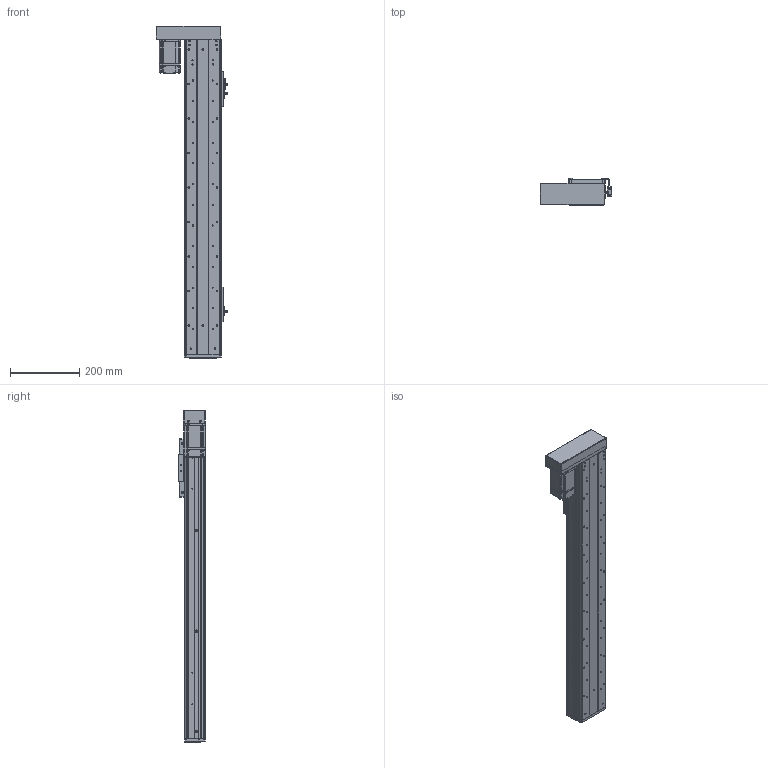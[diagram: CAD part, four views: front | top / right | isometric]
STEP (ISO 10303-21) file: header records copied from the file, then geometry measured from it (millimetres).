
FILE_DESCRIPTION (( 'STEP AP203' ), '1' );
FILE_NAME ('RY100FS-L1620-300-LK(15双轨).SLDASM_650.step', '2021-03-02T07:40:25', ( '盈信电脑' ), ( '东莞市道滘镇水果街19号' ), 'SwSTEP 2.0', 'SolidWorks 2012', '' );
FILE_SCHEMA (( 'CONFIG_CONTROL_DESIGN' ));
Products named in the file (21): RY100FS-15邧寢蛌殏萇儂啣; RY100FS-15邧寢蛌殏萇儂欶; 蚥薯蝶紫輸; RY100FS-L1620-300-LK(15邧寢).SLDASM_650; RY100FS-15邧寢蛌殏萇儂釱; 滅袉蝶14-35; 1; RY100FS-双轨螺母座(16丝杆）; RY80俋离覜茼え; 覜茼ん672; RY100F-詩湍揤踡輸; RY100F-詩湍幗謫粣; RY100F-詩湍揤踡謫; RY100F-綴裔啣; 672嫖萇羲壽假蚾釱; 棠沺沭; RY100F-滅鳥裔啣; RY100FS-300-LK15邧寢祥凄詩湍_650; RY100FS-双轨铝滑块(上板）; RY100FS-300-LK15絳寢倰第菁釱_650; RY100FS-300-LK15絳寢倰第奻裔啣_650
Assembly tree (29 placements, depth 2):
  RY100FS-L1620-300-LK(15邧寢).SLDASM_650
    RY100FS-300-LK15絳寢倰第菁釱_650
    RY100FS-300-LK15絳寢倰第奻裔啣_650  x2
    RY100FS-300-LK15邧寢祥凄詩湍_650
    RY100FS-双轨铝滑块(上板）
    RY100F-滅鳥裔啣
    棠沺沭  x2
    RY100F-詩湍幗謫粣
    RY100F-詩湍揤踡謫  x2
    RY100F-綴裔啣
    672嫖萇羲壽假蚾釱  x2
    RY80俋离覜茼え  x2
    覜茼ん672  x3
    RY100F-詩湍揤踡輸  x2
    RY100FS-双轨螺母座(16丝杆）
    RY100FS-15邧寢蛌殏萇儂釱
    滅袉蝶14-35
    1
    RY100FS-15邧寢蛌殏萇儂啣
    RY100FS-15邧寢蛌殏萇儂欶
    蚥薯蝶紫輸  x2
Bounding box: 207.3 x 78.5 x 962 mm (x, y, z)
Volume: 2388651.3 mm3; surface area: 1014068 mm2
Topology: 29 solids, 29 shells, 2242 faces, 6079 edges, 3923 vertices
Faces by surface type: plane 1026, cylinder 1015, cone 168, bspline 33
Entity records: 64143 total; most frequent: CARTESIAN_POINT 13471, DIRECTION 10108, ORIENTED_EDGE 9962, EDGE_CURVE 4981, AXIS2_PLACEMENT_3D 3576, VERTEX_POINT 3271, VECTOR 2956, LINE 2956
